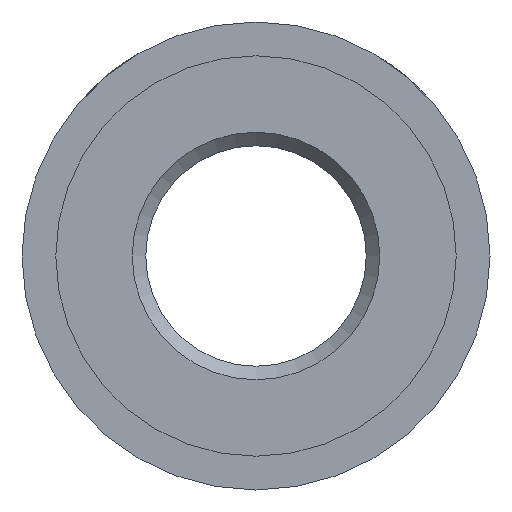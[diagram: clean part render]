
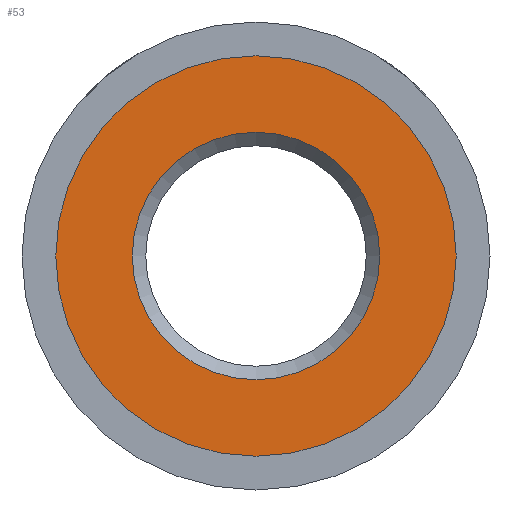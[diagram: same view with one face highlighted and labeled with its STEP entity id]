
A CAD part, left-side view. The second image highlights one B-rep face of the part: STEP entity #53.
In plain terms, the highlighted planar face has unit normal (-1, 0, 0).
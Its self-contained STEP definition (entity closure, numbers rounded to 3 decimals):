
#53 = ADVANCED_FACE( '', ( #112, #113 ), #114, .T. );
#112 = FACE_BOUND( '', #165, .T. );
#113 = FACE_OUTER_BOUND( '', #166, .T. );
#114 = PLANE( '', #167 );
#165 = EDGE_LOOP( '', ( #230 ) );
#166 = EDGE_LOOP( '', ( #231 ) );
#167 = AXIS2_PLACEMENT_3D( '', #232, #233, #234 );
#230 = ORIENTED_EDGE( '', *, *, #256, .T. );
#231 = ORIENTED_EDGE( '', *, *, #258, .T. );
#232 = CARTESIAN_POINT( '', ( 3., 0., 0. ) );
#233 = DIRECTION( '', ( -1., 0., 0. ) );
#234 = DIRECTION( '', ( 0., 0., 1. ) );
#256 = EDGE_CURVE( '', #287, #287, #288, .F. );
#258 = EDGE_CURVE( '', #290, #290, #291, .T. );
#287 = VERTEX_POINT( '', #322 );
#288 = CIRCLE( '', #323, 13.75 );
#290 = VERTEX_POINT( '', #325 );
#291 = CIRCLE( '', #326, 22.25 );
#322 = CARTESIAN_POINT( '', ( 3., 0., 13.75 ) );
#323 = AXIS2_PLACEMENT_3D( '', #460, #461, #462 );
#325 = CARTESIAN_POINT( '', ( 3., 0., 22.25 ) );
#326 = AXIS2_PLACEMENT_3D( '', #463, #464, #465 );
#460 = CARTESIAN_POINT( '', ( 3., 0., 0. ) );
#461 = DIRECTION( '', ( -1., 0., 0. ) );
#462 = DIRECTION( '', ( 0., 0., 1. ) );
#463 = CARTESIAN_POINT( '', ( 3., 0., 0. ) );
#464 = DIRECTION( '', ( -1., 0., 0. ) );
#465 = DIRECTION( '', ( 0., 0., 1. ) );
